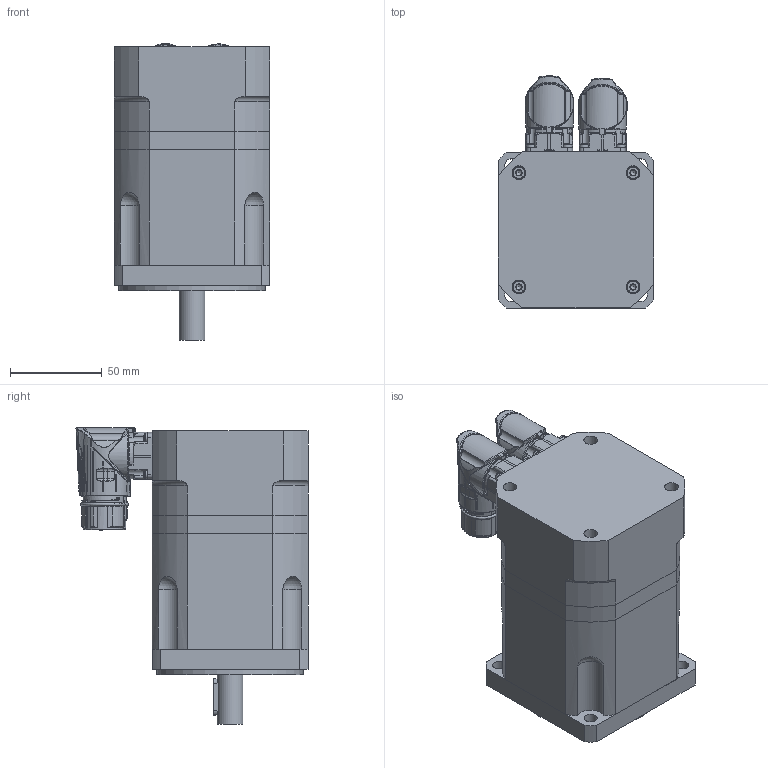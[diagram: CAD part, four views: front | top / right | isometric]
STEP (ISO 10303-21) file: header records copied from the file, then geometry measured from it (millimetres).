
FILE_DESCRIPTION(/* description */ (''),/* implementation_level */ '2;1');
FILE_NAME(/* name */ 'C:\Users\Public\Documents\Autodesk\Inventor LT 2014\Workspace\TG3\DSM5_3x_xxx7\DSM5_31_xxx7.stp',/* time_stamp */ '2016-04-28T10:16:17+02:00',/* author */ ('motion'),/* organization */ (''),/* preprocessor_version */ 'ST-DEVELOPER v15.2',/* originating_system */ 'Autodesk Inventor LT ',/* authorisation */ '');
FILE_SCHEMA (('AUTOMOTIVE_DESIGN { 1 0 10303 214 3 1 1 }'));
Products named in the file (1): DSM5_31_xxx7
Bounding box: 85 x 126.43 x 161.81 mm (x, y, z)
Volume: 938736.2 mm3; surface area: 125753.1 mm2
Topology: 15 solids, 17 shells, 3061 faces, 7704 edges, 4630 vertices
Faces by surface type: cylinder 880, bspline 854, plane 596, torus 382, cone 229, sphere 120
Full cylindrical faces by diameter (mm): 1.2 x17, 2 x6, 2.15 x6, 2.224 x8, 2.5 x8, 2.7 x8, 3 x1, 4 x8, 4.134 x1, 4.5 x2, 5 x4, 5.5 x3, 5.9 x2, 7 x12, 7.2 x4, 7.5 x4, 14 x1, 15 x1, 15.2 x1, 19.1 x1, 21.6 x1, 22.5 x1, 23 x2, 24.4 x1, 28 x1, 35 x2, 60 x1, 80 x1
Entity records: 189375 total; most frequent: CARTESIAN_POINT 120002, ORIENTED_EDGE 14494, DIRECTION 12705, EDGE_CURVE 7247, AXIS2_PLACEMENT_3D 5470, VERTEX_POINT 4541, EDGE_LOOP 3460, ADVANCED_FACE 3057
